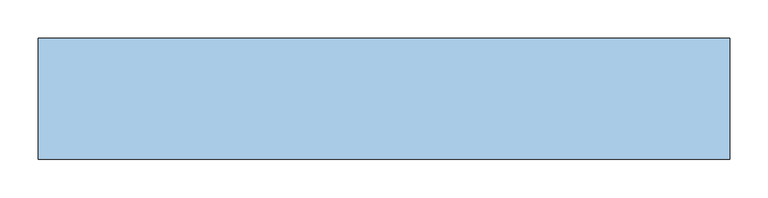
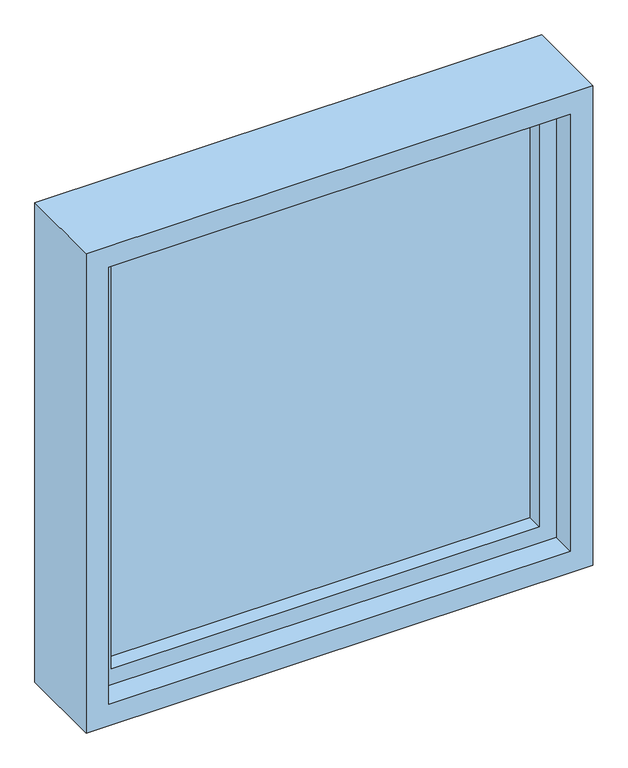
"""IFC4 building model written with IfcOpenShell, lengths in millimetres: window geometry, WD000-창 : WD000-창 900x900."""

from ifc_helpers import new_model, si_unit, frame, origin, place, context, project, spatial, polyline, outline, extrude, source, transform, mapped, element, save


def window_16c43cb3(model_context):
    return source(origin(), model_context, "Body", "SweptSolid", [
        extrude(outline(polyline([(380.0, 6.0), (380.0, -6.0), (-380.0, -6.0), (-380.0, 6.0), (380.0, 6.0)])), frame((0.0, 0.0, 870.0), z_axis=(0.0, 0.0, 1.0), x_axis=(1.0, 0.0, 0.0)), (0.0, 0.0, 1.0), 760.0),
        extrude(outline(polyline([(1660.0, -410.0), (840.0, -410.0), (840.0, 410.0), (1660.0, 410.0), (1660.0, -410.0)]), holes=[polyline([(1630.0, 380.0), (870.0, 380.0), (870.0, -380.0), (1630.0, -380.0), (1630.0, 380.0)])]), frame((0.0, -35.0, 0.0), z_axis=(0.0, 1.0, 0.0), x_axis=(0.0, 0.0, 1.0)), (0.0, 0.0, 1.0), 70.0),
        extrude(outline(polyline([(1700.0, 450.0), (1700.0, -450.0), (800.0, -450.0), (800.0, 450.0), (1700.0, 450.0)]), holes=[polyline([(1660.0, 410.0), (840.0, 410.0), (840.0, -410.0), (1660.0, -410.0), (1660.0, 410.0)])]), frame((0.0, -78.6430223, 0.0), z_axis=(0.0, 1.0, 0.0), x_axis=(0.0, 0.0, 1.0)), (0.0, 0.0, 1.0), 157.2860446),
    ])


if __name__ == "__main__":
    model = new_model("IFC4")
    model_context = context("Model", 3, world=origin())
    ifc_project = project(units=[si_unit("LENGTHUNIT", "METRE", prefix="MILLI")], contexts=[model_context])
    site = spatial("IfcSite", under=ifc_project)
    building = spatial("IfcBuilding", under=site)
    placement = place(None, origin())
    window_shape = window_16c43cb3(model_context)
    element("IfcWindow", 1, ObjectType="WD000-창 : WD000-창 900x900", at=placement, inside=building, context=model_context, shape_type="MappedRepresentation", body=[
        mapped(window_shape, transform((0.0, 0.0, 0.0), x_axis=(1.0, 0.0, 0.0), y_axis=(0.0, 1.0, 0.0), z_axis=(0.0, 0.0, 1.0))),
    ])
    save(model, "model.ifc")
